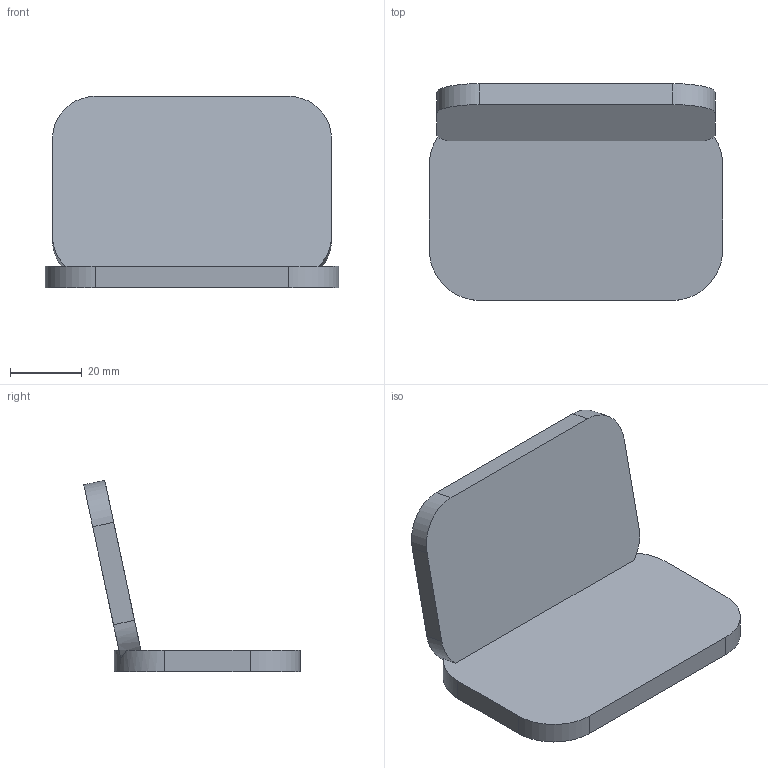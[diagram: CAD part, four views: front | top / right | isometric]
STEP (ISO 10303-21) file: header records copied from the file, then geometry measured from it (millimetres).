
FILE_DESCRIPTION(('Base splice and hand/dowel native rebuild. P1 head/arm retained as imported base geometry.'),'2;1');
FILE_NAME('ROUNDED_PHONE_CRADLE_TRIAL.step','',(''),(''),'SolidCraft','SolidCraft','');
FILE_SCHEMA(('AP242_MANAGED_MODEL_BASED_3D_ENGINEERING_MIM_LF { 1 0 10303 442 1 1 4 }'));
Length unit declared in the file: millimetre
Products named in the file (1): ROUNDED_PHONE_CRADLE_TRIAL
Bounding box: 82 x 60.54 x 53.51 mm (x, y, z)
Volume: 46552.1 mm3; surface area: 17541.6 mm2
Topology: 1 solids, 1 shells, 20 faces, 54 edges, 36 vertices
Faces by surface type: plane 12, cylinder 8
Entity records: 475 total; most frequent: ORIENTED_EDGE 108, CARTESIAN_POINT 84, EDGE_CURVE 54, VERTEX_POINT 36, LINE 30, DIRECTION 27, AXIS2_PLACEMENT_3D 20, EDGE_LOOP 20
